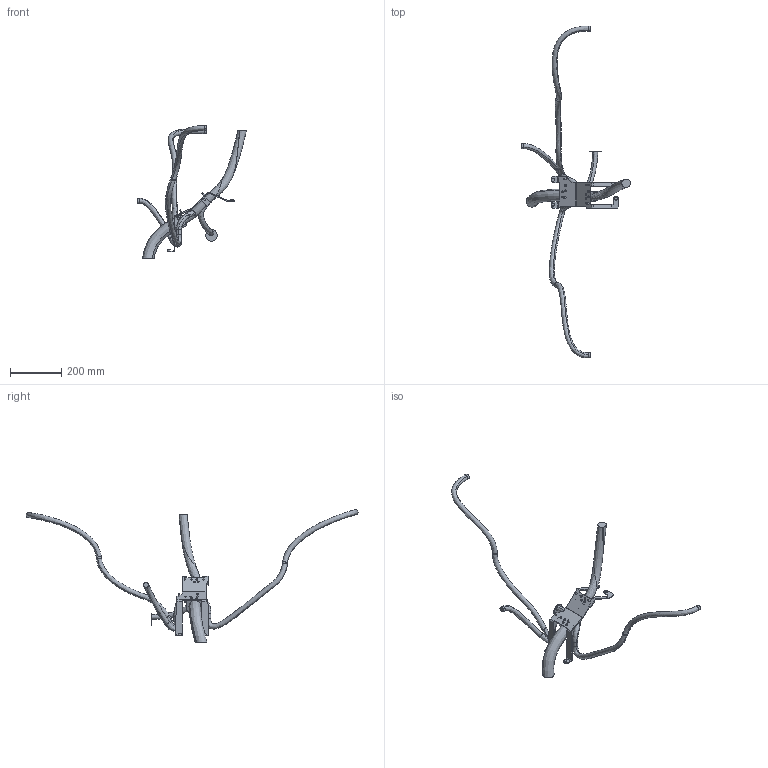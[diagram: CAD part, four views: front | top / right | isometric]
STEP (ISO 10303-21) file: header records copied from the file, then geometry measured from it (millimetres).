
FILE_DESCRIPTION (( 'STEP AP214' ), '1' );
FILE_NAME ('IRB77X0_All_OC_00_LINK1m_CABLE.STEP', '2023-10-02T08:49:13', ( '' ), ( '' ), 'SwSTEP 2.0', 'SolidWorks 2022', '' );
FILE_SCHEMA (( 'AUTOMOTIVE_DESIGN' ));
Length unit declared in the file: millimetre
Products named in the file (1): IRB77X0_All_OC_00_LINK1m_CABLE
Bounding box: 423.66 x 1291.09 x 516.66 mm (x, y, z)
Volume: 1622066.5 mm3; surface area: 301276 mm2
Topology: 1 solids, 1 shells, 273 faces, 669 edges, 414 vertices
Faces by surface type: plane 139, cylinder 91, bspline 43
Entity records: 20620 total; most frequent: CARTESIAN_POINT 13703, ORIENTED_EDGE 1338, DIRECTION 1236, EDGE_CURVE 669, AXIS2_PLACEMENT_3D 446, VERTEX_POINT 414, LINE 344, VECTOR 344
